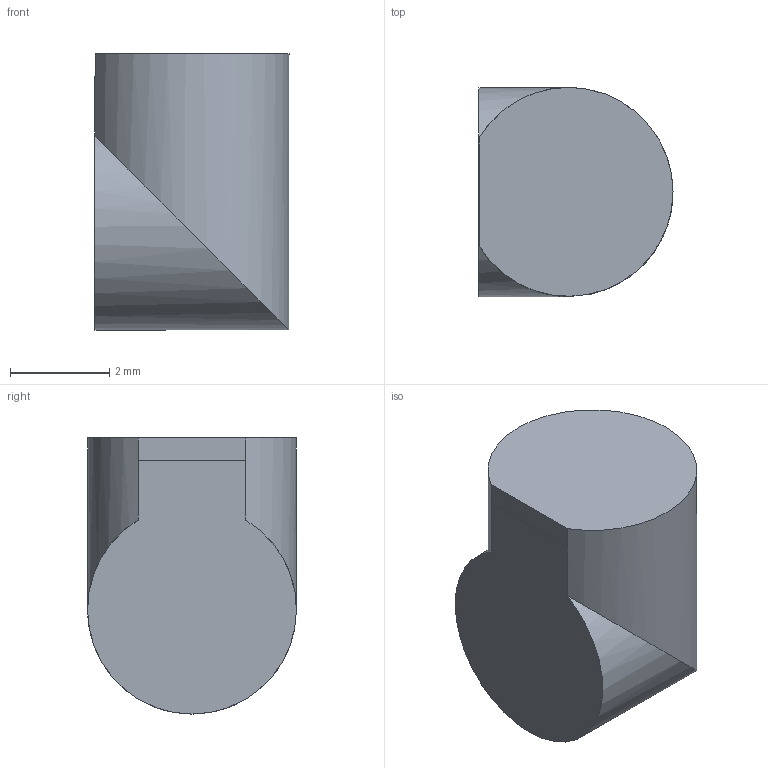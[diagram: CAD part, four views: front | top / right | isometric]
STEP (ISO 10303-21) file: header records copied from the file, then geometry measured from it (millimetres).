
FILE_DESCRIPTION(/* description */ (''),/* implementation_level */ '2;1');
FILE_NAME(/* name */ '05_Optical_C28_R3_4_L02_Light_Guide_Fit_Proxy.step',/* time_stamp */ '2026-09-19T10:15:31-07:00',/* author */ (''),/* organization */ (''),/* preprocessor_version */ 'ST-DEVELOPER v20.2',/* originating_system */ 'Autodesk Translation Framework v15.15.0.0',/* authorisation */ '');
FILE_SCHEMA (('AUTOMOTIVE_DESIGN { 1 0 10303 214 3 1 1 }'));
Length unit declared in the file: millimetre
Products named in the file (1): 2026-09-19-10-15-31-253
Bounding box: 3.9 x 4.2 x 5.55 mm (x, y, z)
Volume: 72.1 mm3; surface area: 96.8 mm2
Topology: 1 solids, 1 shells, 6 faces, 14 edges, 10 vertices
Faces by surface type: plane 4, cylinder 2
Entity records: 214 total; most frequent: DIRECTION 35, CARTESIAN_POINT 31, ORIENTED_EDGE 28, EDGE_CURVE 14, AXIS2_PLACEMENT_3D 14, VERTEX_POINT 10, LINE 7, VECTOR 7
